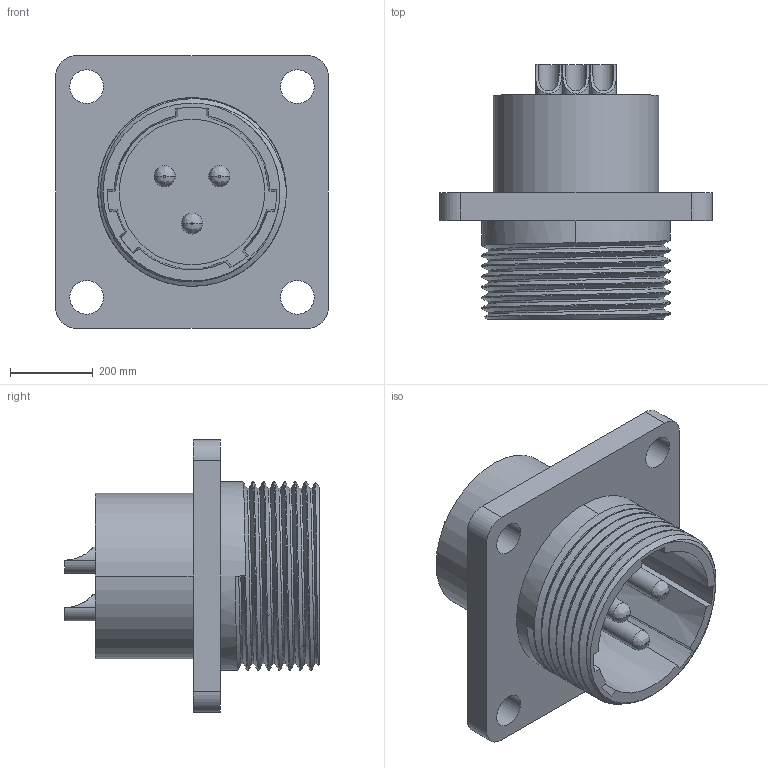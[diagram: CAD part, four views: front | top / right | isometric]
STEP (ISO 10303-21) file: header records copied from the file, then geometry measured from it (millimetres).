
FILE_DESCRIPTION((''),'2;1');
FILE_NAME('WF16K3Z','2020-06-09T',('Administrator'),(''),'CREO PARAMETRIC BY PTC INC, 2016130','CREO PARAMETRIC BY PTC INC, 2016130','');
FILE_SCHEMA(('CONFIG_CONTROL_DESIGN'));
Length unit declared in the file: inch
Products named in the file (1): WF16K3Z
Bounding box: 657.86 x 614.68 x 657.86 mm (x, y, z)
Volume: 59211469.4 mm3; surface area: 2888057.7 mm2
Topology: 1 solids, 1 shells, 127 faces, 334 edges, 221 vertices
Faces by surface type: cylinder 62, plane 42, bspline 15, cone 8
Entity records: 7210 total; most frequent: CARTESIAN_POINT 4078, ORIENTED_EDGE 668, DIRECTION 616, EDGE_CURVE 334, AXIS2_PLACEMENT_3D 247, VERTEX_POINT 221, EDGE_LOOP 147, CIRCLE 135
